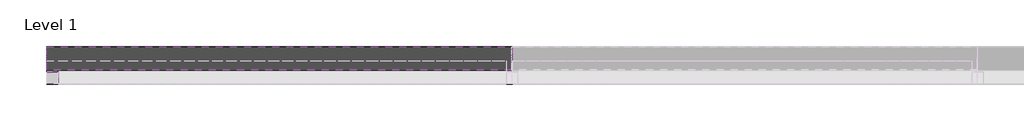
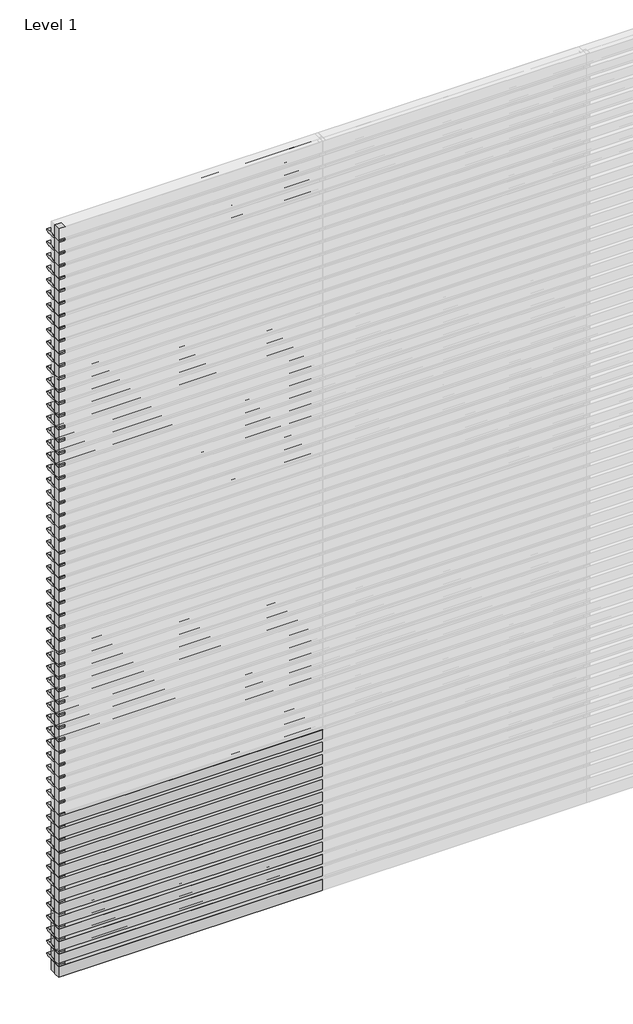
# One storey, part 1 of 6: 119 members, 13 plates.
"""IFC4 building model written with IfcOpenShell, lengths in millimetres."""

from ifc_helpers import new_model, si_unit, origin, place, context, project, spatial, transform, mapped, element, save
from components import rectangular_mullion_31e9810d, rectangular_mullion_cddbc660, empty_system_panel_empty_de6cefbe, empty_system_panel_empty_499a71de

model = new_model("IFC4")

# Units and contexts
model_context = context("Model", 3, world=origin())
ifc_project = project(units=[si_unit("LENGTHUNIT", "METRE", prefix="MILLI")], contexts=[model_context])

# Site, building, storey
site = spatial("IfcSite", under=ifc_project)
building = spatial("IfcBuilding", under=site)
storey = spatial("IfcBuildingStorey", under=building, Name="Level 1", Elevation=0.0)

# Members
placement = place(None, origin())
rectangular_mullion_shape = rectangular_mullion_31e9810d(model_context)
element("IfcMember", 1, ObjectType="Rectangular Mullion : RSen_21_CWM_blade - 100 ellips - 0°_gen_duco projects", at=placement, inside=storey, context=model_context, shape_type="MappedRepresentation", body=[
    mapped(rectangular_mullion_shape, transform((0.0, 3000.0, 100.0), x_axis=(0.0, 0.0, 1.0), y_axis=(0.0, 1.0, 0.0), z_axis=(-1.0, 0.0, 0.0))),
])
element("IfcMember", 2, ObjectType="Rectangular Mullion : RSen_21_CWM_blade - 100 ellips - 0°_gen_duco projects", at=placement, inside=storey, context=model_context, shape_type="MappedRepresentation", body=[
    mapped(rectangular_mullion_shape, transform((0.0, 3000.0, 200.0), x_axis=(0.0, 0.0, 1.0), y_axis=(0.0, 1.0, 0.0), z_axis=(-1.0, 0.0, 0.0))),
])
element("IfcMember", 3, ObjectType="Rectangular Mullion : RSen_21_CWM_blade - 100 ellips - 0°_gen_duco projects", at=placement, inside=storey, context=model_context, shape_type="MappedRepresentation", body=[
    mapped(rectangular_mullion_shape, transform((0.0, 3000.0, 300.0), x_axis=(0.0, 0.0, 1.0), y_axis=(0.0, 1.0, 0.0), z_axis=(-1.0, 0.0, 0.0))),
])
element("IfcMember", 4, ObjectType="Rectangular Mullion : RSen_21_CWM_blade - 100 ellips - 0°_gen_duco projects", at=placement, inside=storey, context=model_context, shape_type="MappedRepresentation", body=[
    mapped(rectangular_mullion_shape, transform((0.0, 3000.0, 400.0), x_axis=(0.0, 0.0, 1.0), y_axis=(0.0, 1.0, 0.0), z_axis=(-1.0, 0.0, 0.0))),
])
element("IfcMember", 5, ObjectType="Rectangular Mullion : RSen_21_CWM_blade - 100 ellips - 0°_gen_duco projects", at=placement, inside=storey, context=model_context, shape_type="MappedRepresentation", body=[
    mapped(rectangular_mullion_shape, transform((0.0, 3000.0, 500.0), x_axis=(0.0, 0.0, 1.0), y_axis=(0.0, 1.0, 0.0), z_axis=(-1.0, 0.0, 0.0))),
])
element("IfcMember", 6, ObjectType="Rectangular Mullion : RSen_21_CWM_blade - 100 ellips - 0°_gen_duco projects", at=placement, inside=storey, context=model_context, shape_type="MappedRepresentation", body=[
    mapped(rectangular_mullion_shape, transform((0.0, 3000.0, 600.0), x_axis=(0.0, 0.0, 1.0), y_axis=(0.0, 1.0, 0.0), z_axis=(-1.0, 0.0, 0.0))),
])
element("IfcMember", 7, ObjectType="Rectangular Mullion : RSen_21_CWM_blade - 100 ellips - 0°_gen_duco projects", at=placement, inside=storey, context=model_context, shape_type="MappedRepresentation", body=[
    mapped(rectangular_mullion_shape, transform((0.0, 3000.0, 700.0), x_axis=(0.0, 0.0, 1.0), y_axis=(0.0, 1.0, 0.0), z_axis=(-1.0, 0.0, 0.0))),
])
element("IfcMember", 8, ObjectType="Rectangular Mullion : RSen_21_CWM_blade - 100 ellips - 0°_gen_duco projects", at=placement, inside=storey, context=model_context, shape_type="MappedRepresentation", body=[
    mapped(rectangular_mullion_shape, transform((0.0, 3000.0, 800.0), x_axis=(0.0, 0.0, 1.0), y_axis=(0.0, 1.0, 0.0), z_axis=(-1.0, 0.0, 0.0))),
])
element("IfcMember", 9, ObjectType="Rectangular Mullion : RSen_21_CWM_blade - 100 ellips - 0°_gen_duco projects", at=placement, inside=storey, context=model_context, shape_type="MappedRepresentation", body=[
    mapped(rectangular_mullion_shape, transform((0.0, 3000.0, 900.0), x_axis=(0.0, 0.0, 1.0), y_axis=(0.0, 1.0, 0.0), z_axis=(-1.0, 0.0, 0.0))),
])
element("IfcMember", 10, ObjectType="Rectangular Mullion : RSen_21_CWM_blade - 100 ellips - 0°_gen_duco projects", at=placement, inside=storey, context=model_context, shape_type="MappedRepresentation", body=[
    mapped(rectangular_mullion_shape, transform((0.0, 3000.0, 1000.0), x_axis=(0.0, 0.0, 1.0), y_axis=(0.0, 1.0, 0.0), z_axis=(-1.0, 0.0, 0.0))),
])
element("IfcMember", 11, ObjectType="Rectangular Mullion : RSen_21_CWM_blade - 100 ellips - 0°_gen_duco projects", at=placement, inside=storey, context=model_context, shape_type="MappedRepresentation", body=[
    mapped(rectangular_mullion_shape, transform((0.0, 3000.0, 1100.0), x_axis=(0.0, 0.0, 1.0), y_axis=(0.0, 1.0, 0.0), z_axis=(-1.0, 0.0, 0.0))),
])
element("IfcMember", 12, ObjectType="Rectangular Mullion : RSen_21_CWM_blade - 100 ellips - 0°_gen_duco projects", at=placement, inside=storey, context=model_context, shape_type="MappedRepresentation", body=[
    mapped(rectangular_mullion_shape, transform((0.0, 3000.0, 1200.0), x_axis=(0.0, 0.0, 1.0), y_axis=(0.0, 1.0, 0.0), z_axis=(-1.0, 0.0, 0.0))),
])
element("IfcMember", 13, ObjectType="Rectangular Mullion : RSen_21_CWM_blade - 100 ellips - 0°_gen_duco projects", at=placement, inside=storey, context=model_context, shape_type="MappedRepresentation", body=[
    mapped(rectangular_mullion_shape, transform((0.0, 3000.0, 1300.0), x_axis=(0.0, 0.0, 1.0), y_axis=(0.0, 1.0, 0.0), z_axis=(-1.0, 0.0, 0.0))),
])
element("IfcMember", 14, ObjectType="Rectangular Mullion : RSen_21_CWM_blade - 100 ellips - 0°_gen_duco projects", at=placement, inside=storey, context=model_context, shape_type="MappedRepresentation", body=[
    mapped(rectangular_mullion_shape, transform((0.0, 3000.0, 1400.0), x_axis=(0.0, 0.0, 1.0), y_axis=(0.0, 1.0, 0.0), z_axis=(-1.0, 0.0, 0.0))),
])
element("IfcMember", 15, ObjectType="Rectangular Mullion : RSen_21_CWM_blade - 100 ellips - 0°_gen_duco projects", at=placement, inside=storey, context=model_context, shape_type="MappedRepresentation", body=[
    mapped(rectangular_mullion_shape, transform((0.0, 3000.0, 1500.0), x_axis=(0.0, 0.0, 1.0), y_axis=(0.0, 1.0, 0.0), z_axis=(-1.0, 0.0, 0.0))),
])
element("IfcMember", 16, ObjectType="Rectangular Mullion : RSen_21_CWM_blade - 100 ellips - 0°_gen_duco projects", at=placement, inside=storey, context=model_context, shape_type="MappedRepresentation", body=[
    mapped(rectangular_mullion_shape, transform((0.0, 3000.0, 1600.0), x_axis=(0.0, 0.0, 1.0), y_axis=(0.0, 1.0, 0.0), z_axis=(-1.0, 0.0, 0.0))),
])
element("IfcMember", 17, ObjectType="Rectangular Mullion : RSen_21_CWM_blade - 100 ellips - 0°_gen_duco projects", at=placement, inside=storey, context=model_context, shape_type="MappedRepresentation", body=[
    mapped(rectangular_mullion_shape, transform((0.0, 3000.0, 1700.0), x_axis=(0.0, 0.0, 1.0), y_axis=(0.0, 1.0, 0.0), z_axis=(-1.0, 0.0, 0.0))),
])
element("IfcMember", 18, ObjectType="Rectangular Mullion : RSen_21_CWM_blade - 100 ellips - 0°_gen_duco projects", at=placement, inside=storey, context=model_context, shape_type="MappedRepresentation", body=[
    mapped(rectangular_mullion_shape, transform((0.0, 3000.0, 1800.0), x_axis=(0.0, 0.0, 1.0), y_axis=(0.0, 1.0, 0.0), z_axis=(-1.0, 0.0, 0.0))),
])
element("IfcMember", 19, ObjectType="Rectangular Mullion : RSen_21_CWM_blade - 100 ellips - 0°_gen_duco projects", at=placement, inside=storey, context=model_context, shape_type="MappedRepresentation", body=[
    mapped(rectangular_mullion_shape, transform((0.0, 3000.0, 1900.0), x_axis=(0.0, 0.0, 1.0), y_axis=(0.0, 1.0, 0.0), z_axis=(-1.0, 0.0, 0.0))),
])
element("IfcMember", 20, ObjectType="Rectangular Mullion : RSen_21_CWM_blade - 100 ellips - 0°_gen_duco projects", at=placement, inside=storey, context=model_context, shape_type="MappedRepresentation", body=[
    mapped(rectangular_mullion_shape, transform((0.0, 3000.0, 2000.0), x_axis=(0.0, 0.0, 1.0), y_axis=(0.0, 1.0, 0.0), z_axis=(-1.0, 0.0, 0.0))),
])
element("IfcMember", 21, ObjectType="Rectangular Mullion : RSen_21_CWM_blade - 100 ellips - 0°_gen_duco projects", at=placement, inside=storey, context=model_context, shape_type="MappedRepresentation", body=[
    mapped(rectangular_mullion_shape, transform((0.0, 3000.0, 2100.0), x_axis=(0.0, 0.0, 1.0), y_axis=(0.0, 1.0, 0.0), z_axis=(-1.0, 0.0, 0.0))),
])
element("IfcMember", 22, ObjectType="Rectangular Mullion : RSen_21_CWM_blade - 100 ellips - 0°_gen_duco projects", at=placement, inside=storey, context=model_context, shape_type="MappedRepresentation", body=[
    mapped(rectangular_mullion_shape, transform((0.0, 3000.0, 2200.0), x_axis=(0.0, 0.0, 1.0), y_axis=(0.0, 1.0, 0.0), z_axis=(-1.0, 0.0, 0.0))),
])
element("IfcMember", 23, ObjectType="Rectangular Mullion : RSen_21_CWM_blade - 100 ellips - 0°_gen_duco projects", at=placement, inside=storey, context=model_context, shape_type="MappedRepresentation", body=[
    mapped(rectangular_mullion_shape, transform((0.0, 3000.0, 2300.0), x_axis=(0.0, 0.0, 1.0), y_axis=(0.0, 1.0, 0.0), z_axis=(-1.0, 0.0, 0.0))),
])
element("IfcMember", 24, ObjectType="Rectangular Mullion : RSen_21_CWM_blade - 100 ellips - 0°_gen_duco projects", at=placement, inside=storey, context=model_context, shape_type="MappedRepresentation", body=[
    mapped(rectangular_mullion_shape, transform((0.0, 3000.0, 2400.0), x_axis=(0.0, 0.0, 1.0), y_axis=(0.0, 1.0, 0.0), z_axis=(-1.0, 0.0, 0.0))),
])
element("IfcMember", 25, ObjectType="Rectangular Mullion : RSen_21_CWM_blade - 100 ellips - 0°_gen_duco projects", at=placement, inside=storey, context=model_context, shape_type="MappedRepresentation", body=[
    mapped(rectangular_mullion_shape, transform((0.0, 3000.0, 2500.0), x_axis=(0.0, 0.0, 1.0), y_axis=(0.0, 1.0, 0.0), z_axis=(-1.0, 0.0, 0.0))),
])
element("IfcMember", 26, ObjectType="Rectangular Mullion : RSen_21_CWM_blade - 100 ellips - 0°_gen_duco projects", at=placement, inside=storey, context=model_context, shape_type="MappedRepresentation", body=[
    mapped(rectangular_mullion_shape, transform((0.0, 3000.0, 2600.0), x_axis=(0.0, 0.0, 1.0), y_axis=(0.0, 1.0, 0.0), z_axis=(-1.0, 0.0, 0.0))),
])
element("IfcMember", 27, ObjectType="Rectangular Mullion : RSen_21_CWM_blade - 100 ellips - 0°_gen_duco projects", at=placement, inside=storey, context=model_context, shape_type="MappedRepresentation", body=[
    mapped(rectangular_mullion_shape, transform((0.0, 3000.0, 2700.0), x_axis=(0.0, 0.0, 1.0), y_axis=(0.0, 1.0, 0.0), z_axis=(-1.0, 0.0, 0.0))),
])
element("IfcMember", 28, ObjectType="Rectangular Mullion : RSen_21_CWM_blade - 100 ellips - 0°_gen_duco projects", at=placement, inside=storey, context=model_context, shape_type="MappedRepresentation", body=[
    mapped(rectangular_mullion_shape, transform((0.0, 3000.0, 2800.0), x_axis=(0.0, 0.0, 1.0), y_axis=(0.0, 1.0, 0.0), z_axis=(-1.0, 0.0, 0.0))),
])
element("IfcMember", 29, ObjectType="Rectangular Mullion : RSen_21_CWM_blade - 100 ellips - 0°_gen_duco projects", at=placement, inside=storey, context=model_context, shape_type="MappedRepresentation", body=[
    mapped(rectangular_mullion_shape, transform((0.0, 3000.0, 2900.0), x_axis=(0.0, 0.0, 1.0), y_axis=(0.0, 1.0, 0.0), z_axis=(-1.0, 0.0, 0.0))),
])
element("IfcMember", 30, ObjectType="Rectangular Mullion : RSen_21_CWM_blade - 100 ellips - 0°_gen_duco projects", at=placement, inside=storey, context=model_context, shape_type="MappedRepresentation", body=[
    mapped(rectangular_mullion_shape, transform((0.0, 3000.0, 3000.0), x_axis=(0.0, 0.0, 1.0), y_axis=(0.0, 1.0, 0.0), z_axis=(-1.0, 0.0, 0.0))),
])
element("IfcMember", 31, ObjectType="Rectangular Mullion : RSen_21_CWM_blade - 100 ellips - 0°_gen_duco projects", at=placement, inside=storey, context=model_context, shape_type="MappedRepresentation", body=[
    mapped(rectangular_mullion_shape, transform((0.0, 3000.0, 3100.0), x_axis=(0.0, 0.0, 1.0), y_axis=(0.0, 1.0, 0.0), z_axis=(-1.0, 0.0, 0.0))),
])
element("IfcMember", 32, ObjectType="Rectangular Mullion : RSen_21_CWM_blade - 100 ellips - 0°_gen_duco projects", at=placement, inside=storey, context=model_context, shape_type="MappedRepresentation", body=[
    mapped(rectangular_mullion_shape, transform((0.0, 3000.0, 3200.0), x_axis=(0.0, 0.0, 1.0), y_axis=(0.0, 1.0, 0.0), z_axis=(-1.0, 0.0, 0.0))),
])
element("IfcMember", 33, ObjectType="Rectangular Mullion : RSen_21_CWM_blade - 100 ellips - 0°_gen_duco projects", at=placement, inside=storey, context=model_context, shape_type="MappedRepresentation", body=[
    mapped(rectangular_mullion_shape, transform((0.0, 3000.0, 3300.0), x_axis=(0.0, 0.0, 1.0), y_axis=(0.0, 1.0, 0.0), z_axis=(-1.0, 0.0, 0.0))),
])
element("IfcMember", 34, ObjectType="Rectangular Mullion : RSen_21_CWM_blade - 100 ellips - 0°_gen_duco projects", at=placement, inside=storey, context=model_context, shape_type="MappedRepresentation", body=[
    mapped(rectangular_mullion_shape, transform((0.0, 3000.0, 3400.0), x_axis=(0.0, 0.0, 1.0), y_axis=(0.0, 1.0, 0.0), z_axis=(-1.0, 0.0, 0.0))),
])
element("IfcMember", 35, ObjectType="Rectangular Mullion : RSen_21_CWM_blade - 100 ellips - 0°_gen_duco projects", at=placement, inside=storey, context=model_context, shape_type="MappedRepresentation", body=[
    mapped(rectangular_mullion_shape, transform((0.0, 3000.0, 3500.0), x_axis=(0.0, 0.0, 1.0), y_axis=(0.0, 1.0, 0.0), z_axis=(-1.0, 0.0, 0.0))),
])
element("IfcMember", 36, ObjectType="Rectangular Mullion : RSen_21_CWM_blade - 100 ellips - 0°_gen_duco projects", at=placement, inside=storey, context=model_context, shape_type="MappedRepresentation", body=[
    mapped(rectangular_mullion_shape, transform((0.0, 3000.0, 3600.0), x_axis=(0.0, 0.0, 1.0), y_axis=(0.0, 1.0, 0.0), z_axis=(-1.0, 0.0, 0.0))),
])
element("IfcMember", 37, ObjectType="Rectangular Mullion : RSen_21_CWM_blade - 100 ellips - 0°_gen_duco projects", at=placement, inside=storey, context=model_context, shape_type="MappedRepresentation", body=[
    mapped(rectangular_mullion_shape, transform((0.0, 3000.0, 3700.0), x_axis=(0.0, 0.0, 1.0), y_axis=(0.0, 1.0, 0.0), z_axis=(-1.0, 0.0, 0.0))),
])
element("IfcMember", 38, ObjectType="Rectangular Mullion : RSen_21_CWM_blade - 100 ellips - 0°_gen_duco projects", at=placement, inside=storey, context=model_context, shape_type="MappedRepresentation", body=[
    mapped(rectangular_mullion_shape, transform((0.0, 3000.0, 3800.0), x_axis=(0.0, 0.0, 1.0), y_axis=(0.0, 1.0, 0.0), z_axis=(-1.0, 0.0, 0.0))),
])
element("IfcMember", 39, ObjectType="Rectangular Mullion : RSen_21_CWM_blade - 100 ellips - 0°_gen_duco projects", at=placement, inside=storey, context=model_context, shape_type="MappedRepresentation", body=[
    mapped(rectangular_mullion_shape, transform((0.0, 3000.0, 3900.0), x_axis=(0.0, 0.0, 1.0), y_axis=(0.0, 1.0, 0.0), z_axis=(-1.0, 0.0, 0.0))),
])
element("IfcMember", 40, ObjectType="Rectangular Mullion : RSen_21_CWM_blade - 100 ellips - 0°_gen_duco projects", at=placement, inside=storey, context=model_context, shape_type="MappedRepresentation", body=[
    mapped(rectangular_mullion_shape, transform((0.0, 3000.0, 4000.0), x_axis=(0.0, 0.0, 1.0), y_axis=(0.0, 1.0, 0.0), z_axis=(-1.0, 0.0, 0.0))),
])
element("IfcMember", 41, ObjectType="Rectangular Mullion : RSen_21_CWM_blade - 100 ellips - 0°_gen_duco projects", at=placement, inside=storey, context=model_context, shape_type="MappedRepresentation", body=[
    mapped(rectangular_mullion_shape, transform((0.0, 3000.0, 4100.0), x_axis=(0.0, 0.0, 1.0), y_axis=(0.0, 1.0, 0.0), z_axis=(-1.0, 0.0, 0.0))),
])
element("IfcMember", 42, ObjectType="Rectangular Mullion : RSen_21_CWM_blade - 100 ellips - 0°_gen_duco projects", at=placement, inside=storey, context=model_context, shape_type="MappedRepresentation", body=[
    mapped(rectangular_mullion_shape, transform((0.0, 3000.0, 4200.0), x_axis=(0.0, 0.0, 1.0), y_axis=(0.0, 1.0, 0.0), z_axis=(-1.0, 0.0, 0.0))),
])
element("IfcMember", 43, ObjectType="Rectangular Mullion : RSen_21_CWM_blade - 100 ellips - 0°_gen_duco projects", at=placement, inside=storey, context=model_context, shape_type="MappedRepresentation", body=[
    mapped(rectangular_mullion_shape, transform((0.0, 3000.0, 4300.0), x_axis=(0.0, 0.0, 1.0), y_axis=(0.0, 1.0, 0.0), z_axis=(-1.0, 0.0, 0.0))),
])
element("IfcMember", 44, ObjectType="Rectangular Mullion : RSen_21_CWM_blade - 100 ellips - 0°_gen_duco projects", at=placement, inside=storey, context=model_context, shape_type="MappedRepresentation", body=[
    mapped(rectangular_mullion_shape, transform((0.0, 3000.0, 4400.0), x_axis=(0.0, 0.0, 1.0), y_axis=(0.0, 1.0, 0.0), z_axis=(-1.0, 0.0, 0.0))),
])
element("IfcMember", 45, ObjectType="Rectangular Mullion : RSen_21_CWM_blade - 100 ellips - 0°_gen_duco projects", at=placement, inside=storey, context=model_context, shape_type="MappedRepresentation", body=[
    mapped(rectangular_mullion_shape, transform((0.0, 3000.0, 4500.0), x_axis=(0.0, 0.0, 1.0), y_axis=(0.0, 1.0, 0.0), z_axis=(-1.0, 0.0, 0.0))),
])
element("IfcMember", 46, ObjectType="Rectangular Mullion : RSen_21_CWM_blade - 100 ellips - 0°_gen_duco projects", at=placement, inside=storey, context=model_context, shape_type="MappedRepresentation", body=[
    mapped(rectangular_mullion_shape, transform((0.0, 3000.0, 4600.0), x_axis=(0.0, 0.0, 1.0), y_axis=(0.0, 1.0, 0.0), z_axis=(-1.0, 0.0, 0.0))),
])
element("IfcMember", 47, ObjectType="Rectangular Mullion : RSen_21_CWM_blade - 100 ellips - 0°_gen_duco projects", at=placement, inside=storey, context=model_context, shape_type="MappedRepresentation", body=[
    mapped(rectangular_mullion_shape, transform((0.0, 3000.0, 4700.0), x_axis=(0.0, 0.0, 1.0), y_axis=(0.0, 1.0, 0.0), z_axis=(-1.0, 0.0, 0.0))),
])
element("IfcMember", 48, ObjectType="Rectangular Mullion : RSen_21_CWM_blade - 100 ellips - 0°_gen_duco projects", at=placement, inside=storey, context=model_context, shape_type="MappedRepresentation", body=[
    mapped(rectangular_mullion_shape, transform((0.0, 3000.0, 4800.0), x_axis=(0.0, 0.0, 1.0), y_axis=(0.0, 1.0, 0.0), z_axis=(-1.0, 0.0, 0.0))),
])
element("IfcMember", 49, ObjectType="Rectangular Mullion : RSen_21_CWM_blade - 100 ellips - 0°_gen_duco projects", at=placement, inside=storey, context=model_context, shape_type="MappedRepresentation", body=[
    mapped(rectangular_mullion_shape, transform((0.0, 3000.0, 4900.0), x_axis=(0.0, 0.0, 1.0), y_axis=(0.0, 1.0, 0.0), z_axis=(-1.0, 0.0, 0.0))),
])
element("IfcMember", 50, ObjectType="Rectangular Mullion : RSen_21_CWM_blade - 100 ellips - 0°_gen_duco projects", at=placement, inside=storey, context=model_context, shape_type="MappedRepresentation", body=[
    mapped(rectangular_mullion_shape, transform((0.0, 3000.0, 5000.0), x_axis=(0.0, 0.0, 1.0), y_axis=(0.0, 1.0, 0.0), z_axis=(-1.0, 0.0, 0.0))),
])
element("IfcMember", 51, ObjectType="Rectangular Mullion : RSen_21_CWM_blade - 100 ellips - 0°_gen_duco projects", at=placement, inside=storey, context=model_context, shape_type="MappedRepresentation", body=[
    mapped(rectangular_mullion_shape, transform((0.0, 3000.0, 5100.0), x_axis=(0.0, 0.0, 1.0), y_axis=(0.0, 1.0, 0.0), z_axis=(-1.0, 0.0, 0.0))),
])
element("IfcMember", 52, ObjectType="Rectangular Mullion : RSen_21_CWM_blade - 100 ellips - 0°_gen_duco projects", at=placement, inside=storey, context=model_context, shape_type="MappedRepresentation", body=[
    mapped(rectangular_mullion_shape, transform((0.0, 3000.0, 5200.0), x_axis=(0.0, 0.0, 1.0), y_axis=(0.0, 1.0, 0.0), z_axis=(-1.0, 0.0, 0.0))),
])
element("IfcMember", 53, ObjectType="Rectangular Mullion : RSen_21_CWM_blade - 100 ellips - 0°_gen_duco projects", at=placement, inside=storey, context=model_context, shape_type="MappedRepresentation", body=[
    mapped(rectangular_mullion_shape, transform((0.0, 3000.0, 5300.0), x_axis=(0.0, 0.0, 1.0), y_axis=(0.0, 1.0, 0.0), z_axis=(-1.0, 0.0, 0.0))),
])
element("IfcMember", 54, ObjectType="Rectangular Mullion : RSen_21_CWM_blade - 100 ellips - 0°_gen_duco projects", at=placement, inside=storey, context=model_context, shape_type="MappedRepresentation", body=[
    mapped(rectangular_mullion_shape, transform((0.0, 3000.0, 5400.0), x_axis=(0.0, 0.0, 1.0), y_axis=(0.0, 1.0, 0.0), z_axis=(-1.0, 0.0, 0.0))),
])
element("IfcMember", 55, ObjectType="Rectangular Mullion : RSen_21_CWM_blade - 100 ellips - 0°_gen_duco projects", at=placement, inside=storey, context=model_context, shape_type="MappedRepresentation", body=[
    mapped(rectangular_mullion_shape, transform((0.0, 3000.0, 5500.0), x_axis=(0.0, 0.0, 1.0), y_axis=(0.0, 1.0, 0.0), z_axis=(-1.0, 0.0, 0.0))),
])
element("IfcMember", 56, ObjectType="Rectangular Mullion : RSen_21_CWM_blade - 100 ellips - 0°_gen_duco projects", at=placement, inside=storey, context=model_context, shape_type="MappedRepresentation", body=[
    mapped(rectangular_mullion_shape, transform((0.0, 3000.0, 5600.0), x_axis=(0.0, 0.0, 1.0), y_axis=(0.0, 1.0, 0.0), z_axis=(-1.0, 0.0, 0.0))),
])
element("IfcMember", 57, ObjectType="Rectangular Mullion : RSen_21_CWM_blade - 100 ellips - 0°_gen_duco projects", at=placement, inside=storey, context=model_context, shape_type="MappedRepresentation", body=[
    mapped(rectangular_mullion_shape, transform((0.0, 3000.0, 5700.0), x_axis=(0.0, 0.0, 1.0), y_axis=(0.0, 1.0, 0.0), z_axis=(-1.0, 0.0, 0.0))),
])
element("IfcMember", 58, ObjectType="Rectangular Mullion : RSen_21_CWM_blade - 100 ellips - 0°_gen_duco projects", at=placement, inside=storey, context=model_context, shape_type="MappedRepresentation", body=[
    mapped(rectangular_mullion_shape, transform((0.0, 3000.0, 5800.0), x_axis=(0.0, 0.0, 1.0), y_axis=(0.0, 1.0, 0.0), z_axis=(-1.0, 0.0, 0.0))),
])
element("IfcMember", 59, ObjectType="Rectangular Mullion : RSen_21_CWM_blade - 100 ellips - 0°_gen_duco projects", at=placement, inside=storey, context=model_context, shape_type="MappedRepresentation", body=[
    mapped(rectangular_mullion_shape, transform((0.0, 3000.0, 5900.0), x_axis=(0.0, 0.0, 1.0), y_axis=(0.0, 1.0, 0.0), z_axis=(-1.0, 0.0, 0.0))),
])
rectangular_mullion_2_shape = rectangular_mullion_cddbc660(model_context)
element("IfcMember", 60, ObjectType="Rectangular Mullion : RSen_21_CWM_support profile 50x50 - left_gen_duco projects", at=placement, inside=storey, context=model_context, shape_type="MappedRepresentation", body=[
    mapped(rectangular_mullion_2_shape, transform((0.0, 3000.0, 0.0), x_axis=(-1.0, 0.0, 0.0), y_axis=(0.0, 1.0, 0.0), z_axis=(0.0, 0.0, -1.0))),
])
element("IfcMember", 61, ObjectType="Rectangular Mullion : RSen_21_CWM_support profile 50x50 - left_gen_duco projects", at=placement, inside=storey, context=model_context, shape_type="MappedRepresentation", body=[
    mapped(rectangular_mullion_2_shape, transform((0.0, 3000.0, 100.0), x_axis=(-1.0, 0.0, 0.0), y_axis=(0.0, 1.0, 0.0), z_axis=(0.0, 0.0, -1.0))),
])
element("IfcMember", 62, ObjectType="Rectangular Mullion : RSen_21_CWM_support profile 50x50 - left_gen_duco projects", at=placement, inside=storey, context=model_context, shape_type="MappedRepresentation", body=[
    mapped(rectangular_mullion_2_shape, transform((0.0, 3000.0, 200.0), x_axis=(-1.0, 0.0, 0.0), y_axis=(0.0, 1.0, 0.0), z_axis=(0.0, 0.0, -1.0))),
])
element("IfcMember", 63, ObjectType="Rectangular Mullion : RSen_21_CWM_support profile 50x50 - left_gen_duco projects", at=placement, inside=storey, context=model_context, shape_type="MappedRepresentation", body=[
    mapped(rectangular_mullion_2_shape, transform((0.0, 3000.0, 300.0), x_axis=(-1.0, 0.0, 0.0), y_axis=(0.0, 1.0, 0.0), z_axis=(0.0, 0.0, -1.0))),
])
element("IfcMember", 64, ObjectType="Rectangular Mullion : RSen_21_CWM_support profile 50x50 - left_gen_duco projects", at=placement, inside=storey, context=model_context, shape_type="MappedRepresentation", body=[
    mapped(rectangular_mullion_2_shape, transform((0.0, 3000.0, 400.0), x_axis=(-1.0, 0.0, 0.0), y_axis=(0.0, 1.0, 0.0), z_axis=(0.0, 0.0, -1.0))),
])
element("IfcMember", 65, ObjectType="Rectangular Mullion : RSen_21_CWM_support profile 50x50 - left_gen_duco projects", at=placement, inside=storey, context=model_context, shape_type="MappedRepresentation", body=[
    mapped(rectangular_mullion_2_shape, transform((0.0, 3000.0, 500.0), x_axis=(-1.0, 0.0, 0.0), y_axis=(0.0, 1.0, 0.0), z_axis=(0.0, 0.0, -1.0))),
])
element("IfcMember", 66, ObjectType="Rectangular Mullion : RSen_21_CWM_support profile 50x50 - left_gen_duco projects", at=placement, inside=storey, context=model_context, shape_type="MappedRepresentation", body=[
    mapped(rectangular_mullion_2_shape, transform((0.0, 3000.0, 600.0), x_axis=(-1.0, 0.0, 0.0), y_axis=(0.0, 1.0, 0.0), z_axis=(0.0, 0.0, -1.0))),
])
element("IfcMember", 67, ObjectType="Rectangular Mullion : RSen_21_CWM_support profile 50x50 - left_gen_duco projects", at=placement, inside=storey, context=model_context, shape_type="MappedRepresentation", body=[
    mapped(rectangular_mullion_2_shape, transform((0.0, 3000.0, 700.0), x_axis=(-1.0, 0.0, 0.0), y_axis=(0.0, 1.0, 0.0), z_axis=(0.0, 0.0, -1.0))),
])
element("IfcMember", 68, ObjectType="Rectangular Mullion : RSen_21_CWM_support profile 50x50 - left_gen_duco projects", at=placement, inside=storey, context=model_context, shape_type="MappedRepresentation", body=[
    mapped(rectangular_mullion_2_shape, transform((0.0, 3000.0, 800.0), x_axis=(-1.0, 0.0, 0.0), y_axis=(0.0, 1.0, 0.0), z_axis=(0.0, 0.0, -1.0))),
])
element("IfcMember", 69, ObjectType="Rectangular Mullion : RSen_21_CWM_support profile 50x50 - left_gen_duco projects", at=placement, inside=storey, context=model_context, shape_type="MappedRepresentation", body=[
    mapped(rectangular_mullion_2_shape, transform((0.0, 3000.0, 900.0), x_axis=(-1.0, 0.0, 0.0), y_axis=(0.0, 1.0, 0.0), z_axis=(0.0, 0.0, -1.0))),
])
element("IfcMember", 70, ObjectType="Rectangular Mullion : RSen_21_CWM_support profile 50x50 - left_gen_duco projects", at=placement, inside=storey, context=model_context, shape_type="MappedRepresentation", body=[
    mapped(rectangular_mullion_2_shape, transform((0.0, 3000.0, 1000.0), x_axis=(-1.0, 0.0, 0.0), y_axis=(0.0, 1.0, 0.0), z_axis=(0.0, 0.0, -1.0))),
])
element("IfcMember", 71, ObjectType="Rectangular Mullion : RSen_21_CWM_support profile 50x50 - left_gen_duco projects", at=placement, inside=storey, context=model_context, shape_type="MappedRepresentation", body=[
    mapped(rectangular_mullion_2_shape, transform((0.0, 3000.0, 1100.0), x_axis=(-1.0, 0.0, 0.0), y_axis=(0.0, 1.0, 0.0), z_axis=(0.0, 0.0, -1.0))),
])
element("IfcMember", 72, ObjectType="Rectangular Mullion : RSen_21_CWM_support profile 50x50 - left_gen_duco projects", at=placement, inside=storey, context=model_context, shape_type="MappedRepresentation", body=[
    mapped(rectangular_mullion_2_shape, transform((0.0, 3000.0, 1200.0), x_axis=(-1.0, 0.0, 0.0), y_axis=(0.0, 1.0, 0.0), z_axis=(0.0, 0.0, -1.0))),
])
element("IfcMember", 73, ObjectType="Rectangular Mullion : RSen_21_CWM_support profile 50x50 - left_gen_duco projects", at=placement, inside=storey, context=model_context, shape_type="MappedRepresentation", body=[
    mapped(rectangular_mullion_2_shape, transform((0.0, 3000.0, 1300.0), x_axis=(-1.0, 0.0, 0.0), y_axis=(0.0, 1.0, 0.0), z_axis=(0.0, 0.0, -1.0))),
])
element("IfcMember", 74, ObjectType="Rectangular Mullion : RSen_21_CWM_support profile 50x50 - left_gen_duco projects", at=placement, inside=storey, context=model_context, shape_type="MappedRepresentation", body=[
    mapped(rectangular_mullion_2_shape, transform((0.0, 3000.0, 1400.0), x_axis=(-1.0, 0.0, 0.0), y_axis=(0.0, 1.0, 0.0), z_axis=(0.0, 0.0, -1.0))),
])
element("IfcMember", 75, ObjectType="Rectangular Mullion : RSen_21_CWM_support profile 50x50 - left_gen_duco projects", at=placement, inside=storey, context=model_context, shape_type="MappedRepresentation", body=[
    mapped(rectangular_mullion_2_shape, transform((0.0, 3000.0, 1500.0), x_axis=(-1.0, 0.0, 0.0), y_axis=(0.0, 1.0, 0.0), z_axis=(0.0, 0.0, -1.0))),
])
element("IfcMember", 76, ObjectType="Rectangular Mullion : RSen_21_CWM_support profile 50x50 - left_gen_duco projects", at=placement, inside=storey, context=model_context, shape_type="MappedRepresentation", body=[
    mapped(rectangular_mullion_2_shape, transform((0.0, 3000.0, 1600.0), x_axis=(-1.0, 0.0, 0.0), y_axis=(0.0, 1.0, 0.0), z_axis=(0.0, 0.0, -1.0))),
])
element("IfcMember", 77, ObjectType="Rectangular Mullion : RSen_21_CWM_support profile 50x50 - left_gen_duco projects", at=placement, inside=storey, context=model_context, shape_type="MappedRepresentation", body=[
    mapped(rectangular_mullion_2_shape, transform((0.0, 3000.0, 1700.0), x_axis=(-1.0, 0.0, 0.0), y_axis=(0.0, 1.0, 0.0), z_axis=(0.0, 0.0, -1.0))),
])
element("IfcMember", 78, ObjectType="Rectangular Mullion : RSen_21_CWM_support profile 50x50 - left_gen_duco projects", at=placement, inside=storey, context=model_context, shape_type="MappedRepresentation", body=[
    mapped(rectangular_mullion_2_shape, transform((0.0, 3000.0, 1800.0), x_axis=(-1.0, 0.0, 0.0), y_axis=(0.0, 1.0, 0.0), z_axis=(0.0, 0.0, -1.0))),
])
element("IfcMember", 79, ObjectType="Rectangular Mullion : RSen_21_CWM_support profile 50x50 - left_gen_duco projects", at=placement, inside=storey, context=model_context, shape_type="MappedRepresentation", body=[
    mapped(rectangular_mullion_2_shape, transform((0.0, 3000.0, 1900.0), x_axis=(-1.0, 0.0, 0.0), y_axis=(0.0, 1.0, 0.0), z_axis=(0.0, 0.0, -1.0))),
])
element("IfcMember", 80, ObjectType="Rectangular Mullion : RSen_21_CWM_support profile 50x50 - left_gen_duco projects", at=placement, inside=storey, context=model_context, shape_type="MappedRepresentation", body=[
    mapped(rectangular_mullion_2_shape, transform((0.0, 3000.0, 2000.0), x_axis=(-1.0, 0.0, 0.0), y_axis=(0.0, 1.0, 0.0), z_axis=(0.0, 0.0, -1.0))),
])
element("IfcMember", 81, ObjectType="Rectangular Mullion : RSen_21_CWM_support profile 50x50 - left_gen_duco projects", at=placement, inside=storey, context=model_context, shape_type="MappedRepresentation", body=[
    mapped(rectangular_mullion_2_shape, transform((0.0, 3000.0, 2100.0), x_axis=(-1.0, 0.0, 0.0), y_axis=(0.0, 1.0, 0.0), z_axis=(0.0, 0.0, -1.0))),
])
element("IfcMember", 82, ObjectType="Rectangular Mullion : RSen_21_CWM_support profile 50x50 - left_gen_duco projects", at=placement, inside=storey, context=model_context, shape_type="MappedRepresentation", body=[
    mapped(rectangular_mullion_2_shape, transform((0.0, 3000.0, 2200.0), x_axis=(-1.0, 0.0, 0.0), y_axis=(0.0, 1.0, 0.0), z_axis=(0.0, 0.0, -1.0))),
])
element("IfcMember", 83, ObjectType="Rectangular Mullion : RSen_21_CWM_support profile 50x50 - left_gen_duco projects", at=placement, inside=storey, context=model_context, shape_type="MappedRepresentation", body=[
    mapped(rectangular_mullion_2_shape, transform((0.0, 3000.0, 2300.0), x_axis=(-1.0, 0.0, 0.0), y_axis=(0.0, 1.0, 0.0), z_axis=(0.0, 0.0, -1.0))),
])
element("IfcMember", 84, ObjectType="Rectangular Mullion : RSen_21_CWM_support profile 50x50 - left_gen_duco projects", at=placement, inside=storey, context=model_context, shape_type="MappedRepresentation", body=[
    mapped(rectangular_mullion_2_shape, transform((0.0, 3000.0, 2400.0), x_axis=(-1.0, 0.0, 0.0), y_axis=(0.0, 1.0, 0.0), z_axis=(0.0, 0.0, -1.0))),
])
element("IfcMember", 85, ObjectType="Rectangular Mullion : RSen_21_CWM_support profile 50x50 - left_gen_duco projects", at=placement, inside=storey, context=model_context, shape_type="MappedRepresentation", body=[
    mapped(rectangular_mullion_2_shape, transform((0.0, 3000.0, 2500.0), x_axis=(-1.0, 0.0, 0.0), y_axis=(0.0, 1.0, 0.0), z_axis=(0.0, 0.0, -1.0))),
])
element("IfcMember", 86, ObjectType="Rectangular Mullion : RSen_21_CWM_support profile 50x50 - left_gen_duco projects", at=placement, inside=storey, context=model_context, shape_type="MappedRepresentation", body=[
    mapped(rectangular_mullion_2_shape, transform((0.0, 3000.0, 2600.0), x_axis=(-1.0, 0.0, 0.0), y_axis=(0.0, 1.0, 0.0), z_axis=(0.0, 0.0, -1.0))),
])
element("IfcMember", 87, ObjectType="Rectangular Mullion : RSen_21_CWM_support profile 50x50 - left_gen_duco projects", at=placement, inside=storey, context=model_context, shape_type="MappedRepresentation", body=[
    mapped(rectangular_mullion_2_shape, transform((0.0, 3000.0, 2700.0), x_axis=(-1.0, 0.0, 0.0), y_axis=(0.0, 1.0, 0.0), z_axis=(0.0, 0.0, -1.0))),
])
element("IfcMember", 88, ObjectType="Rectangular Mullion : RSen_21_CWM_support profile 50x50 - left_gen_duco projects", at=placement, inside=storey, context=model_context, shape_type="MappedRepresentation", body=[
    mapped(rectangular_mullion_2_shape, transform((0.0, 3000.0, 2800.0), x_axis=(-1.0, 0.0, 0.0), y_axis=(0.0, 1.0, 0.0), z_axis=(0.0, 0.0, -1.0))),
])
element("IfcMember", 89, ObjectType="Rectangular Mullion : RSen_21_CWM_support profile 50x50 - left_gen_duco projects", at=placement, inside=storey, context=model_context, shape_type="MappedRepresentation", body=[
    mapped(rectangular_mullion_2_shape, transform((0.0, 3000.0, 2900.0), x_axis=(-1.0, 0.0, 0.0), y_axis=(0.0, 1.0, 0.0), z_axis=(0.0, 0.0, -1.0))),
])
element("IfcMember", 90, ObjectType="Rectangular Mullion : RSen_21_CWM_support profile 50x50 - left_gen_duco projects", at=placement, inside=storey, context=model_context, shape_type="MappedRepresentation", body=[
    mapped(rectangular_mullion_2_shape, transform((0.0, 3000.0, 3000.0), x_axis=(-1.0, 0.0, 0.0), y_axis=(0.0, 1.0, 0.0), z_axis=(0.0, 0.0, -1.0))),
])
element("IfcMember", 91, ObjectType="Rectangular Mullion : RSen_21_CWM_support profile 50x50 - left_gen_duco projects", at=placement, inside=storey, context=model_context, shape_type="MappedRepresentation", body=[
    mapped(rectangular_mullion_2_shape, transform((0.0, 3000.0, 3100.0), x_axis=(-1.0, 0.0, 0.0), y_axis=(0.0, 1.0, 0.0), z_axis=(0.0, 0.0, -1.0))),
])
element("IfcMember", 92, ObjectType="Rectangular Mullion : RSen_21_CWM_support profile 50x50 - left_gen_duco projects", at=placement, inside=storey, context=model_context, shape_type="MappedRepresentation", body=[
    mapped(rectangular_mullion_2_shape, transform((0.0, 3000.0, 3200.0), x_axis=(-1.0, 0.0, 0.0), y_axis=(0.0, 1.0, 0.0), z_axis=(0.0, 0.0, -1.0))),
])
element("IfcMember", 93, ObjectType="Rectangular Mullion : RSen_21_CWM_support profile 50x50 - left_gen_duco projects", at=placement, inside=storey, context=model_context, shape_type="MappedRepresentation", body=[
    mapped(rectangular_mullion_2_shape, transform((0.0, 3000.0, 3300.0), x_axis=(-1.0, 0.0, 0.0), y_axis=(0.0, 1.0, 0.0), z_axis=(0.0, 0.0, -1.0))),
])
element("IfcMember", 94, ObjectType="Rectangular Mullion : RSen_21_CWM_support profile 50x50 - left_gen_duco projects", at=placement, inside=storey, context=model_context, shape_type="MappedRepresentation", body=[
    mapped(rectangular_mullion_2_shape, transform((0.0, 3000.0, 3400.0), x_axis=(-1.0, 0.0, 0.0), y_axis=(0.0, 1.0, 0.0), z_axis=(0.0, 0.0, -1.0))),
])
element("IfcMember", 95, ObjectType="Rectangular Mullion : RSen_21_CWM_support profile 50x50 - left_gen_duco projects", at=placement, inside=storey, context=model_context, shape_type="MappedRepresentation", body=[
    mapped(rectangular_mullion_2_shape, transform((0.0, 3000.0, 3500.0), x_axis=(-1.0, 0.0, 0.0), y_axis=(0.0, 1.0, 0.0), z_axis=(0.0, 0.0, -1.0))),
])
element("IfcMember", 96, ObjectType="Rectangular Mullion : RSen_21_CWM_support profile 50x50 - left_gen_duco projects", at=placement, inside=storey, context=model_context, shape_type="MappedRepresentation", body=[
    mapped(rectangular_mullion_2_shape, transform((0.0, 3000.0, 3600.0), x_axis=(-1.0, 0.0, 0.0), y_axis=(0.0, 1.0, 0.0), z_axis=(0.0, 0.0, -1.0))),
])
element("IfcMember", 97, ObjectType="Rectangular Mullion : RSen_21_CWM_support profile 50x50 - left_gen_duco projects", at=placement, inside=storey, context=model_context, shape_type="MappedRepresentation", body=[
    mapped(rectangular_mullion_2_shape, transform((0.0, 3000.0, 3700.0), x_axis=(-1.0, 0.0, 0.0), y_axis=(0.0, 1.0, 0.0), z_axis=(0.0, 0.0, -1.0))),
])
element("IfcMember", 98, ObjectType="Rectangular Mullion : RSen_21_CWM_support profile 50x50 - left_gen_duco projects", at=placement, inside=storey, context=model_context, shape_type="MappedRepresentation", body=[
    mapped(rectangular_mullion_2_shape, transform((0.0, 3000.0, 3800.0), x_axis=(-1.0, 0.0, 0.0), y_axis=(0.0, 1.0, 0.0), z_axis=(0.0, 0.0, -1.0))),
])
element("IfcMember", 99, ObjectType="Rectangular Mullion : RSen_21_CWM_support profile 50x50 - left_gen_duco projects", at=placement, inside=storey, context=model_context, shape_type="MappedRepresentation", body=[
    mapped(rectangular_mullion_2_shape, transform((0.0, 3000.0, 3900.0), x_axis=(-1.0, 0.0, 0.0), y_axis=(0.0, 1.0, 0.0), z_axis=(0.0, 0.0, -1.0))),
])
element("IfcMember", 100, ObjectType="Rectangular Mullion : RSen_21_CWM_support profile 50x50 - left_gen_duco projects", at=placement, inside=storey, context=model_context, shape_type="MappedRepresentation", body=[
    mapped(rectangular_mullion_2_shape, transform((0.0, 3000.0, 4000.0), x_axis=(-1.0, 0.0, 0.0), y_axis=(0.0, 1.0, 0.0), z_axis=(0.0, 0.0, -1.0))),
])
element("IfcMember", 101, ObjectType="Rectangular Mullion : RSen_21_CWM_support profile 50x50 - left_gen_duco projects", at=placement, inside=storey, context=model_context, shape_type="MappedRepresentation", body=[
    mapped(rectangular_mullion_2_shape, transform((0.0, 3000.0, 4100.0), x_axis=(-1.0, 0.0, 0.0), y_axis=(0.0, 1.0, 0.0), z_axis=(0.0, 0.0, -1.0))),
])
element("IfcMember", 102, ObjectType="Rectangular Mullion : RSen_21_CWM_support profile 50x50 - left_gen_duco projects", at=placement, inside=storey, context=model_context, shape_type="MappedRepresentation", body=[
    mapped(rectangular_mullion_2_shape, transform((0.0, 3000.0, 4200.0), x_axis=(-1.0, 0.0, 0.0), y_axis=(0.0, 1.0, 0.0), z_axis=(0.0, 0.0, -1.0))),
])
element("IfcMember", 103, ObjectType="Rectangular Mullion : RSen_21_CWM_support profile 50x50 - left_gen_duco projects", at=placement, inside=storey, context=model_context, shape_type="MappedRepresentation", body=[
    mapped(rectangular_mullion_2_shape, transform((0.0, 3000.0, 4300.0), x_axis=(-1.0, 0.0, 0.0), y_axis=(0.0, 1.0, 0.0), z_axis=(0.0, 0.0, -1.0))),
])
element("IfcMember", 104, ObjectType="Rectangular Mullion : RSen_21_CWM_support profile 50x50 - left_gen_duco projects", at=placement, inside=storey, context=model_context, shape_type="MappedRepresentation", body=[
    mapped(rectangular_mullion_2_shape, transform((0.0, 3000.0, 4400.0), x_axis=(-1.0, 0.0, 0.0), y_axis=(0.0, 1.0, 0.0), z_axis=(0.0, 0.0, -1.0))),
])
element("IfcMember", 105, ObjectType="Rectangular Mullion : RSen_21_CWM_support profile 50x50 - left_gen_duco projects", at=placement, inside=storey, context=model_context, shape_type="MappedRepresentation", body=[
    mapped(rectangular_mullion_2_shape, transform((0.0, 3000.0, 4500.0), x_axis=(-1.0, 0.0, 0.0), y_axis=(0.0, 1.0, 0.0), z_axis=(0.0, 0.0, -1.0))),
])
element("IfcMember", 106, ObjectType="Rectangular Mullion : RSen_21_CWM_support profile 50x50 - left_gen_duco projects", at=placement, inside=storey, context=model_context, shape_type="MappedRepresentation", body=[
    mapped(rectangular_mullion_2_shape, transform((0.0, 3000.0, 4600.0), x_axis=(-1.0, 0.0, 0.0), y_axis=(0.0, 1.0, 0.0), z_axis=(0.0, 0.0, -1.0))),
])
element("IfcMember", 107, ObjectType="Rectangular Mullion : RSen_21_CWM_support profile 50x50 - left_gen_duco projects", at=placement, inside=storey, context=model_context, shape_type="MappedRepresentation", body=[
    mapped(rectangular_mullion_2_shape, transform((0.0, 3000.0, 4700.0), x_axis=(-1.0, 0.0, 0.0), y_axis=(0.0, 1.0, 0.0), z_axis=(0.0, 0.0, -1.0))),
])
element("IfcMember", 108, ObjectType="Rectangular Mullion : RSen_21_CWM_support profile 50x50 - left_gen_duco projects", at=placement, inside=storey, context=model_context, shape_type="MappedRepresentation", body=[
    mapped(rectangular_mullion_2_shape, transform((0.0, 3000.0, 4800.0), x_axis=(-1.0, 0.0, 0.0), y_axis=(0.0, 1.0, 0.0), z_axis=(0.0, 0.0, -1.0))),
])
element("IfcMember", 109, ObjectType="Rectangular Mullion : RSen_21_CWM_support profile 50x50 - left_gen_duco projects", at=placement, inside=storey, context=model_context, shape_type="MappedRepresentation", body=[
    mapped(rectangular_mullion_2_shape, transform((0.0, 3000.0, 4900.0), x_axis=(-1.0, 0.0, 0.0), y_axis=(0.0, 1.0, 0.0), z_axis=(0.0, 0.0, -1.0))),
])
element("IfcMember", 110, ObjectType="Rectangular Mullion : RSen_21_CWM_support profile 50x50 - left_gen_duco projects", at=placement, inside=storey, context=model_context, shape_type="MappedRepresentation", body=[
    mapped(rectangular_mullion_2_shape, transform((0.0, 3000.0, 5000.0), x_axis=(-1.0, 0.0, 0.0), y_axis=(0.0, 1.0, 0.0), z_axis=(0.0, 0.0, -1.0))),
])
element("IfcMember", 111, ObjectType="Rectangular Mullion : RSen_21_CWM_support profile 50x50 - left_gen_duco projects", at=placement, inside=storey, context=model_context, shape_type="MappedRepresentation", body=[
    mapped(rectangular_mullion_2_shape, transform((0.0, 3000.0, 5100.0), x_axis=(-1.0, 0.0, 0.0), y_axis=(0.0, 1.0, 0.0), z_axis=(0.0, 0.0, -1.0))),
])
element("IfcMember", 112, ObjectType="Rectangular Mullion : RSen_21_CWM_support profile 50x50 - left_gen_duco projects", at=placement, inside=storey, context=model_context, shape_type="MappedRepresentation", body=[
    mapped(rectangular_mullion_2_shape, transform((0.0, 3000.0, 5200.0), x_axis=(-1.0, 0.0, 0.0), y_axis=(0.0, 1.0, 0.0), z_axis=(0.0, 0.0, -1.0))),
])
element("IfcMember", 113, ObjectType="Rectangular Mullion : RSen_21_CWM_support profile 50x50 - left_gen_duco projects", at=placement, inside=storey, context=model_context, shape_type="MappedRepresentation", body=[
    mapped(rectangular_mullion_2_shape, transform((0.0, 3000.0, 5300.0), x_axis=(-1.0, 0.0, 0.0), y_axis=(0.0, 1.0, 0.0), z_axis=(0.0, 0.0, -1.0))),
])
element("IfcMember", 114, ObjectType="Rectangular Mullion : RSen_21_CWM_support profile 50x50 - left_gen_duco projects", at=placement, inside=storey, context=model_context, shape_type="MappedRepresentation", body=[
    mapped(rectangular_mullion_2_shape, transform((0.0, 3000.0, 5400.0), x_axis=(-1.0, 0.0, 0.0), y_axis=(0.0, 1.0, 0.0), z_axis=(0.0, 0.0, -1.0))),
])
element("IfcMember", 115, ObjectType="Rectangular Mullion : RSen_21_CWM_support profile 50x50 - left_gen_duco projects", at=placement, inside=storey, context=model_context, shape_type="MappedRepresentation", body=[
    mapped(rectangular_mullion_2_shape, transform((0.0, 3000.0, 5500.0), x_axis=(-1.0, 0.0, 0.0), y_axis=(0.0, 1.0, 0.0), z_axis=(0.0, 0.0, -1.0))),
])
element("IfcMember", 116, ObjectType="Rectangular Mullion : RSen_21_CWM_support profile 50x50 - left_gen_duco projects", at=placement, inside=storey, context=model_context, shape_type="MappedRepresentation", body=[
    mapped(rectangular_mullion_2_shape, transform((0.0, 3000.0, 5600.0), x_axis=(-1.0, 0.0, 0.0), y_axis=(0.0, 1.0, 0.0), z_axis=(0.0, 0.0, -1.0))),
])
element("IfcMember", 117, ObjectType="Rectangular Mullion : RSen_21_CWM_support profile 50x50 - left_gen_duco projects", at=placement, inside=storey, context=model_context, shape_type="MappedRepresentation", body=[
    mapped(rectangular_mullion_2_shape, transform((0.0, 3000.0, 5700.0), x_axis=(-1.0, 0.0, 0.0), y_axis=(0.0, 1.0, 0.0), z_axis=(0.0, 0.0, -1.0))),
])
element("IfcMember", 118, ObjectType="Rectangular Mullion : RSen_21_CWM_support profile 50x50 - left_gen_duco projects", at=placement, inside=storey, context=model_context, shape_type="MappedRepresentation", body=[
    mapped(rectangular_mullion_2_shape, transform((0.0, 3000.0, 5800.0), x_axis=(-1.0, 0.0, 0.0), y_axis=(0.0, 1.0, 0.0), z_axis=(0.0, 0.0, -1.0))),
])
element("IfcMember", 119, ObjectType="Rectangular Mullion : RSen_21_CWM_support profile 50x50 - left_gen_duco projects", at=placement, inside=storey, context=model_context, shape_type="MappedRepresentation", body=[
    mapped(rectangular_mullion_2_shape, transform((0.0, 3000.0, 5900.0), x_axis=(-1.0, 0.0, 0.0), y_axis=(0.0, 1.0, 0.0), z_axis=(0.0, 0.0, -1.0))),
])

# Plates
empty_system_panel_empty_shape = empty_system_panel_empty_de6cefbe(model_context)
element("IfcPlate", 120, ObjectType="Empty System Panel : Empty", at=placement, inside=storey, context=model_context, shape_type="MappedRepresentation", body=[
    mapped(empty_system_panel_empty_shape, transform((1000.0, 3000.0, 0.0), x_axis=(-1.0, 0.0, 0.0), y_axis=(0.0, -1.0, 0.0), z_axis=(0.0, 0.0, 1.0))),
])
empty_system_panel_empty_2_shape = empty_system_panel_empty_499a71de(model_context)
element("IfcPlate", 121, ObjectType="Empty System Panel : Empty", at=placement, inside=storey, context=model_context, shape_type="MappedRepresentation", body=[
    mapped(empty_system_panel_empty_2_shape, transform((1000.0, 3000.0, 113.0), x_axis=(-1.0, 0.0, 0.0), y_axis=(0.0, -1.0, 0.0), z_axis=(0.0, 0.0, 1.0))),
])
element("IfcPlate", 122, ObjectType="Empty System Panel : Empty", at=placement, inside=storey, context=model_context, shape_type="MappedRepresentation", body=[
    mapped(empty_system_panel_empty_2_shape, transform((1000.0, 3000.0, 213.0), x_axis=(-1.0, 0.0, 0.0), y_axis=(0.0, -1.0, 0.0), z_axis=(0.0, 0.0, 1.0))),
])
element("IfcPlate", 123, ObjectType="Empty System Panel : Empty", at=placement, inside=storey, context=model_context, shape_type="MappedRepresentation", body=[
    mapped(empty_system_panel_empty_2_shape, transform((1000.0, 3000.0, 313.0), x_axis=(-1.0, 0.0, 0.0), y_axis=(0.0, -1.0, 0.0), z_axis=(0.0, 0.0, 1.0))),
])
element("IfcPlate", 124, ObjectType="Empty System Panel : Empty", at=placement, inside=storey, context=model_context, shape_type="MappedRepresentation", body=[
    mapped(empty_system_panel_empty_2_shape, transform((1000.0, 3000.0, 413.0), x_axis=(-1.0, 0.0, 0.0), y_axis=(0.0, -1.0, 0.0), z_axis=(0.0, 0.0, 1.0))),
])
element("IfcPlate", 125, ObjectType="Empty System Panel : Empty", at=placement, inside=storey, context=model_context, shape_type="MappedRepresentation", body=[
    mapped(empty_system_panel_empty_2_shape, transform((1000.0, 3000.0, 513.0), x_axis=(-1.0, 0.0, 0.0), y_axis=(0.0, -1.0, 0.0), z_axis=(0.0, 0.0, 1.0))),
])
element("IfcPlate", 126, ObjectType="Empty System Panel : Empty", at=placement, inside=storey, context=model_context, shape_type="MappedRepresentation", body=[
    mapped(empty_system_panel_empty_2_shape, transform((1000.0, 3000.0, 613.0), x_axis=(-1.0, 0.0, 0.0), y_axis=(0.0, -1.0, 0.0), z_axis=(0.0, 0.0, 1.0))),
])
element("IfcPlate", 127, ObjectType="Empty System Panel : Empty", at=placement, inside=storey, context=model_context, shape_type="MappedRepresentation", body=[
    mapped(empty_system_panel_empty_2_shape, transform((1000.0, 3000.0, 713.0), x_axis=(-1.0, 0.0, 0.0), y_axis=(0.0, -1.0, 0.0), z_axis=(0.0, 0.0, 1.0))),
])
element("IfcPlate", 128, ObjectType="Empty System Panel : Empty", at=placement, inside=storey, context=model_context, shape_type="MappedRepresentation", body=[
    mapped(empty_system_panel_empty_2_shape, transform((1000.0, 3000.0, 813.0), x_axis=(-1.0, 0.0, 0.0), y_axis=(0.0, -1.0, 0.0), z_axis=(0.0, 0.0, 1.0))),
])
element("IfcPlate", 129, ObjectType="Empty System Panel : Empty", at=placement, inside=storey, context=model_context, shape_type="MappedRepresentation", body=[
    mapped(empty_system_panel_empty_2_shape, transform((1000.0, 3000.0, 913.0), x_axis=(-1.0, 0.0, 0.0), y_axis=(0.0, -1.0, 0.0), z_axis=(0.0, 0.0, 1.0))),
])
element("IfcPlate", 130, ObjectType="Empty System Panel : Empty", at=placement, inside=storey, context=model_context, shape_type="MappedRepresentation", body=[
    mapped(empty_system_panel_empty_2_shape, transform((1000.0, 3000.0, 1013.0), x_axis=(-1.0, 0.0, 0.0), y_axis=(0.0, -1.0, 0.0), z_axis=(0.0, 0.0, 1.0))),
])
element("IfcPlate", 131, ObjectType="Empty System Panel : Empty", at=placement, inside=storey, context=model_context, shape_type="MappedRepresentation", body=[
    mapped(empty_system_panel_empty_2_shape, transform((1000.0, 3000.0, 1113.0), x_axis=(-1.0, 0.0, 0.0), y_axis=(0.0, -1.0, 0.0), z_axis=(0.0, 0.0, 1.0))),
])
element("IfcPlate", 132, ObjectType="Empty System Panel : Empty", at=placement, inside=storey, context=model_context, shape_type="MappedRepresentation", body=[
    mapped(empty_system_panel_empty_2_shape, transform((1000.0, 3000.0, 1213.0), x_axis=(-1.0, 0.0, 0.0), y_axis=(0.0, -1.0, 0.0), z_axis=(0.0, 0.0, 1.0))),
])

save(model, "model.ifc")
